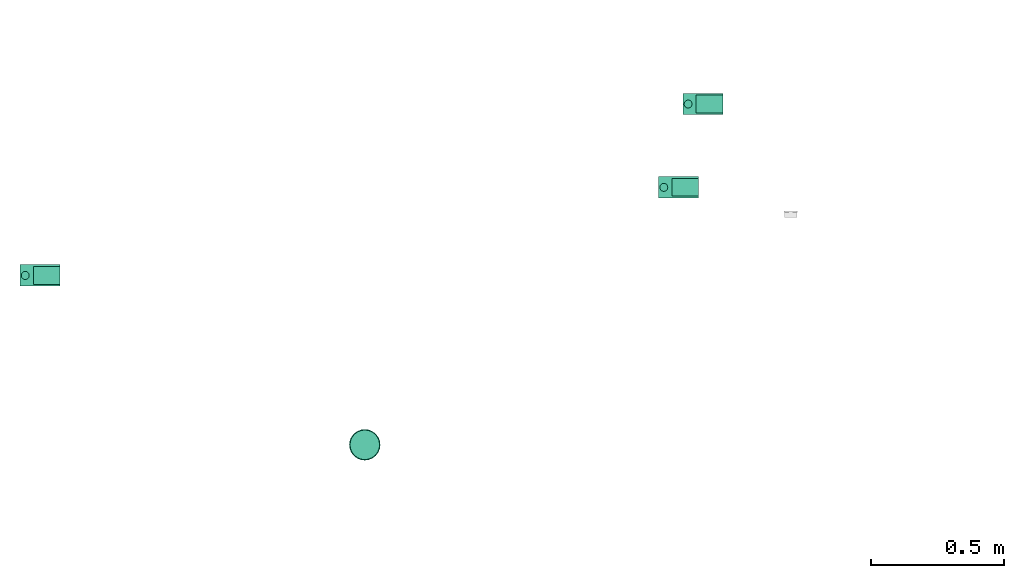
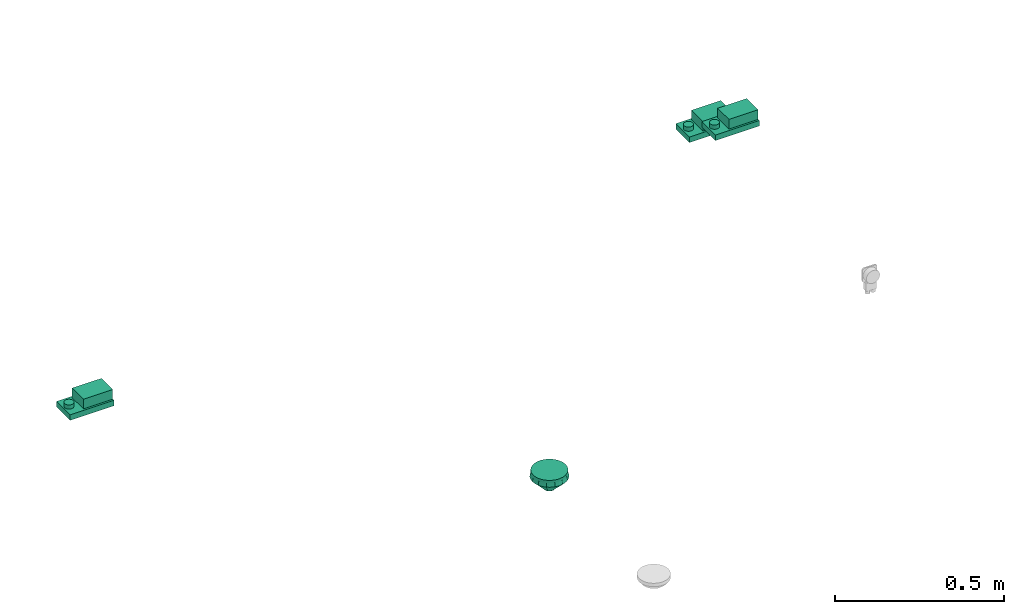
# One storey, part 5 of 10: 4 distribution control elements.
"""IFC2X3 building model written with IfcOpenShell, lengths in millimetres."""

import ifcopenshell
import ifcopenshell.guid

model = None  # the IFC model being written
_history = None  # IfcOwnerHistory: only IFC2X3 demands one
_inside = {}  # id of a spatial element -> (the spatial element, [elements in it])
_under = {}  # id of a project, library or spatial element -> (it, [spatial elements below it])
_declared = {}  # id of a project -> (the project, [libraries it declares])
_typed = {}  # id of a type object -> (the type object, [elements of that type])
_made_of = {}  # id of a material, layer set ... -> (it, [elements and type objects made of it])


def new_model(schema):
    """Start an empty IFC model of exactly this schema.

    Asked for "IFC4X3", IfcOpenShell would pick the latest addendum, in which some entities
    have other attributes; the version numbers below select the first issue.
    IFC2X3 requires an IfcOwnerHistory on every rooted entity: one is made here for all.
    """
    global model, _history
    if schema == "IFC4X3":
        model = ifcopenshell.file(schema_version=(4, 3, 0, 0))
    else:
        model = ifcopenshell.file(schema=schema)
    _inside.clear()
    _under.clear()
    _declared.clear()
    _typed.clear()
    _made_of.clear()
    _history = None
    if model.schema == "IFC2X3":
        org = make("IfcOrganization", Name="unknown")
        user = make(
            "IfcPersonAndOrganization",
            ThePerson=make("IfcPerson", FamilyName="unknown"),
            TheOrganization=org,
        )
        app = make(
            "IfcApplication",
            ApplicationDeveloper=org,
            Version="unknown",
            ApplicationFullName="unknown",
            ApplicationIdentifier="unknown",
        )
        _history = make(
            "IfcOwnerHistory",
            OwningUser=user,
            OwningApplication=app,
            ChangeAction="ADDED",
            CreationDate=0,
        )
    return model


def make(cls, **values):
    """One entity of the class cls with the attributes given. An attribute that is None is left unset."""
    return model.create_entity(
        cls, **{name: value for name, value in values.items() if value is not None}
    )


def entity(cls, *values):
    """Any entity or typed value of the class cls, its attributes in the order of the schema. None: left unset."""
    e = model.create_entity(cls)
    for i, value in enumerate(values):
        if value is not None:
            e[i] = value
    return e


def rooted(cls, **values):
    """An entity with a GlobalId (a new one), such as an element, a storey or a relation."""
    return make(cls, GlobalId=ifcopenshell.guid.new(), OwnerHistory=_history, **values)


def si_unit(unit_type, name, prefix=None):
    """IfcSIUnit, for example si_unit("LENGTHUNIT", "METRE", prefix="MILLI")."""
    return make("IfcSIUnit", UnitType=unit_type, Prefix=prefix, Name=name)


def converted_unit(unit_type, name, factor, base, dimensions=None, offset=None):
    """IfcConversionBasedUnit, such as the inch: factor (a typed value) times the base unit."""
    return make(
        "IfcConversionBasedUnit"
        if offset is None
        else "IfcConversionBasedUnitWithOffset",
        ConversionOffset=offset,
        Dimensions=None
        if dimensions is None
        else entity("IfcDimensionalExponents", *dimensions),
        UnitType=unit_type,
        Name=name,
        ConversionFactor=make(
            "IfcMeasureWithUnit", ValueComponent=factor, UnitComponent=base
        ),
    )


def derived_unit(unit_type, elements):
    """IfcDerivedUnit: a product of units, each with its exponent."""
    return make(
        "IfcDerivedUnit",
        Elements=[
            make("IfcDerivedUnitElement", Unit=unit, Exponent=power)
            for unit, power in elements
        ],
        UnitType=unit_type,
    )


def assignment(units):
    """IfcUnitAssignment: the units of a project."""
    return None if units is None else make("IfcUnitAssignment", Units=units)


def point(xyz):
    """IfcCartesianPoint."""
    return None if xyz is None else make("IfcCartesianPoint", Coordinates=xyz)


def direction(xyz):
    """IfcDirection."""
    return None if xyz is None else make("IfcDirection", DirectionRatios=xyz)


def frame(location, z_axis=None, x_axis=None):
    """IfcAxis2Placement3D, a coordinate frame: its origin and axes. An axis left out is left unset."""
    return make(
        "IfcAxis2Placement3D",
        Location=point(location),
        Axis=direction(z_axis),
        RefDirection=direction(x_axis),
    )


def origin_with_axes():
    """The frame at (0, 0, 0) with the z axis (0, 0, 1) and the x axis (1, 0, 0) written out."""
    return frame((0.0, 0.0, 0.0), z_axis=(0.0, 0.0, 1.0), x_axis=(1.0, 0.0, 0.0))


def place(relative_to, where):
    """IfcLocalPlacement: puts the frame where relative to a parent placement (None: the world)."""
    return make(
        "IfcLocalPlacement", PlacementRelTo=relative_to, RelativePlacement=where
    )


def context(
    kind, dimensions, precision=None, world=None, true_north=None, identifier=None
):
    """IfcGeometricRepresentationContext, for example the 3D "Model" context."""
    return make(
        "IfcGeometricRepresentationContext",
        ContextIdentifier=identifier,
        ContextType=kind,
        CoordinateSpaceDimension=dimensions,
        Precision=precision,
        WorldCoordinateSystem=world,
        TrueNorth=true_north,
    )


def subcontext(parent, identifier, kind, view, scale=None):
    """IfcGeometricRepresentationSubContext, for example "Body" below "Model"."""
    return make(
        "IfcGeometricRepresentationSubContext",
        ContextIdentifier=identifier,
        ContextType=kind,
        ParentContext=parent,
        TargetScale=scale,
        TargetView=view,
    )


def project(units=None, contexts=None):
    """IfcProject with its units and contexts."""
    return rooted(
        "IfcProject",
        Name="project",
        RepresentationContexts=contexts,
        UnitsInContext=assignment(units),
    )


def spatial(cls, under=None, at=None, **own):
    """A site, building, storey or space (cls), placed at a placement, below another one or the project."""
    s = rooted(cls, ObjectPlacement=at, **own)
    if under is not None:
        _under.setdefault(under.id(), (under, []))[1].append(s)
    return s


def faces_of(points, faces, orient=None, outer=None):
    """IfcFace entities. A face is a list of loops; a loop is a list of indices into points, from 0.

    orient and outer hold one flag for each loop. By default every Orientation is true, the
    first loop of a face is its IfcFaceOuterBound and the others are IfcFaceBound.
    """
    made = []
    for i, loops in enumerate(faces):
        bounds = []
        for j, loop in enumerate(loops):
            is_outer = j == 0 if outer is None else outer[i][j]
            bounds.append(
                make(
                    "IfcFaceOuterBound" if is_outer else "IfcFaceBound",
                    Bound=make("IfcPolyLoop", Polygon=[points[k] for k in loop]),
                    Orientation=True if orient is None else orient[i][j],
                )
            )
        made.append(make("IfcFace", Bounds=bounds))
    return made


def open_shell(faces, orient=None, outer=None):
    """The faces of one IfcOpenShell. surface_model builds it on its shared points."""
    return ("IfcOpenShell", faces, orient, outer)


def surface_model(cls, points, shells):
    """IfcFaceBasedSurfaceModel or IfcShellBasedSurfaceModel (cls): surfaces that need not close."""
    shared = [point(p) for p in points]
    made = [make(c, CfsFaces=faces_of(shared, fs, o, b)) for c, fs, o, b in shells]
    if cls == "IfcFaceBasedSurfaceModel":
        return make(cls, FbsmFaces=made)
    return make(cls, SbsmBoundary=made)


def shape(context_of_items, identifier, shape_type, items):
    """IfcShapeRepresentation: the items that make up one representation, for example the "Body"."""
    return make(
        "IfcShapeRepresentation",
        ContextOfItems=context_of_items,
        RepresentationIdentifier=identifier,
        RepresentationType=shape_type,
        Items=items,
    )


def source(mapping_origin, context_of_items, identifier, shape_type, items):
    """IfcRepresentationMap: a shape defined once, which mapped items show again and again."""
    return make(
        "IfcRepresentationMap",
        MappingOrigin=mapping_origin,
        MappedRepresentation=shape(context_of_items, identifier, shape_type, items),
    )


def transform(
    local_origin,
    x_axis=None,
    y_axis=None,
    z_axis=None,
    scale=None,
    scale2=None,
    scale3=None,
    uniform=True,
):
    """IfcCartesianTransformationOperator3D, or its non-uniform kind. x_axis, y_axis, z_axis: its Axis1, 2, 3."""
    if uniform:
        return make(
            "IfcCartesianTransformationOperator3D",
            Axis1=direction(x_axis),
            Axis2=direction(y_axis),
            LocalOrigin=point(local_origin),
            Scale=scale,
            Axis3=direction(z_axis),
        )
    return make(
        "IfcCartesianTransformationOperator3DnonUniform",
        Axis1=direction(x_axis),
        Axis2=direction(y_axis),
        LocalOrigin=point(local_origin),
        Scale=scale,
        Axis3=direction(z_axis),
        Scale2=scale2,
        Scale3=scale3,
    )


def mapped(mapping_source, mapping_target):
    """IfcMappedItem: shows the shape of a source again, moved by a transform."""
    return make(
        "IfcMappedItem", MappingSource=mapping_source, MappingTarget=mapping_target
    )


def made_of(thing, what):
    """Note that an element or type object is made of a material, layer set ...; save() writes the relation."""
    if what is not None:
        _made_of.setdefault(what.id(), (what, []))[1].append(thing)
    return thing


def type_object(cls, material=None, **own):
    """A type object (cls), such as IfcWallType, which elements share."""
    return made_of(rooted(cls, **own), material)


def element(
    cls,
    number,
    at=None,
    inside=None,
    cuts=None,
    type_object=None,
    material=None,
    context=None,
    identifier="Body",
    shape_type=None,
    held_by="IfcProductDefinitionShape",
    body=None,
    shapes=None,
    **own,
):
    """One element of the class cls, such as IfcWall. Its Tag is "e" and its number.

    at: its placement. inside: the storey or other place that contains it. cuts: it is an
    opening in that element (IfcRelVoidsElement). A single representation is given by context,
    identifier, shape_type and body (its items); several are given by shapes. held_by: the class
    of the entity that holds the representations. save() writes the other relations.
    """
    e = rooted(cls, Tag="e%d" % number, ObjectPlacement=at, **own)
    if body is not None:
        shapes = [shape(context, identifier, shape_type, body)]
    if shapes is not None:
        e.Representation = make(held_by, Representations=shapes)
    if inside is not None:
        _inside.setdefault(inside.id(), (inside, []))[1].append(e)
    if cuts is not None:
        rooted(
            "IfcRelVoidsElement", RelatingBuildingElement=cuts, RelatedOpeningElement=e
        )
    if type_object is not None:
        _typed.setdefault(type_object.id(), (type_object, []))[1].append(e)
    return made_of(e, material)


def aggregate(whole, parts):
    """IfcRelAggregates: a whole, such as a stair, and the parts it consists of."""
    return rooted("IfcRelAggregates", RelatingObject=whole, RelatedObjects=parts)


def save(model, path):
    """Write the relations noted so far, then the file.

    IfcRelAggregates (storeys below a building ...), IfcRelContainedInSpatialStructure (elements
    in a storey), IfcRelDefinesByType, IfcRelAssociatesMaterial and IfcRelDeclares: one each for
    every whole, place, type object, material and project.
    """
    for whole, parts in _under.values():
        aggregate(whole, parts)
    for where, things in _inside.values():
        rooted(
            "IfcRelContainedInSpatialStructure",
            RelatedElements=things,
            RelatingStructure=where,
        )
    for kind, things in _typed.values():
        rooted("IfcRelDefinesByType", RelatedObjects=things, RelatingType=kind)
    for what, things in _made_of.values():
        rooted("IfcRelAssociatesMaterial", RelatedObjects=things, RelatingMaterial=what)
    for by, libraries in _declared.values():
        rooted("IfcRelDeclares", RelatingContext=by, RelatedDefinitions=libraries)
    model.write(path)


model = new_model("IFC2X3")

# Units and contexts
model_context = context("Model", 3, precision=0.01, world=frame((0.0, 4.29681676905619e-09, 0.0)), true_north=direction((4.01073788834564e-13, 1.0)))
plan_context = context("Plan", 3, precision=0.01, world=frame((0.0, 4.29681676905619e-09, 0.0)), true_north=direction((4.01073788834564e-13, 1.0)))
body_context = subcontext(model_context, "Body", "Model", "MODEL_VIEW")
ifc_project = project(units=[converted_unit("PLANEANGLEUNIT", "DEGREE", entity("IfcPositiveLengthMeasure", 0.0174532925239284), si_unit("PLANEANGLEUNIT", "RADIAN"), dimensions=[0, 0, 0, 0, 0, 0, 0]), si_unit("AREAUNIT", "SQUARE_METRE"), si_unit("LENGTHUNIT", "METRE", prefix="MILLI"), si_unit("MASSUNIT", "GRAM", prefix="KILO"), si_unit("POWERUNIT", "WATT"), si_unit("PRESSUREUNIT", "PASCAL"), si_unit("FORCEUNIT", "NEWTON", prefix="KILO"), si_unit("ELECTRICVOLTAGEUNIT", "VOLT"), si_unit("ELECTRICCURRENTUNIT", "AMPERE"), si_unit("THERMODYNAMICTEMPERATUREUNIT", "DEGREE_CELSIUS"), si_unit("TIMEUNIT", "SECOND"), si_unit("VOLUMEUNIT", "CUBIC_METRE"), derived_unit("LINEARVELOCITYUNIT", [(si_unit("LENGTHUNIT", "METRE"), 1), (si_unit("TIMEUNIT", "SECOND"), -1)]), derived_unit("VOLUMETRICFLOWRATEUNIT", [(si_unit("VOLUMEUNIT", "CUBIC_METRE"), 1), (si_unit("TIMEUNIT", "SECOND"), -1)]), derived_unit("THERMALTRANSMITTANCEUNIT", [(si_unit("POWERUNIT", "WATT"), 1), (si_unit("THERMODYNAMICTEMPERATUREUNIT", "KELVIN"), -1), (si_unit("AREAUNIT", "SQUARE_METRE"), -1)]), derived_unit("SOUNDPRESSUREUNIT", [(si_unit("PRESSUREUNIT", "PASCAL"), 1)])], contexts=[model_context, plan_context])

# Site, building, storey
site_placement = place(None, frame((0.0, -4.29681676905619e-09, 0.0), z_axis=(0.0, 0.0, 1.0), x_axis=(1.0, 0.0, 0.0)))
site = spatial("IfcSite", under=ifc_project, at=site_placement, Name="ENGM", CompositionType="ELEMENT")
building_placement = place(site_placement, frame((0.0, 4.29681676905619e-09, 0.0), z_axis=(0.0, 0.0, 1.0), x_axis=(1.0, 0.0, 0.0)))
building = spatial("IfcBuilding", under=site, at=building_placement, Name="TS", CompositionType="ELEMENT")
storey_placement = place(building_placement, frame((0.0, 0.0, 210900.0), z_axis=(0.0, 0.0, 1.0), x_axis=(1.0, 0.0, 0.0)))
storey = spatial("IfcBuildingStorey", under=building, at=storey_placement, Name="Nivå F", CompositionType="ELEMENT", Elevation=210900.0)

# Distribution control elements
alarm_type_1 = type_object("IfcAlarmType", Name="Standard", PredefinedType="NOTDEFINED")
shared_shape_1 = source(origin_with_axes(), body_context, "Body", "SurfaceModel", [
    surface_model("IfcShellBasedSurfaceModel", [(8.775, -15.19875, -64.9), (-12.40972, -12.40972, -64.9), (4.54227, -16.952, -64.9), (15.19875, -8.775, -64.9), (12.40972, -12.40972, -64.9), (16.952, -4.54227, -64.9), (-4.54227, 16.952, -64.9), (-16.952, -4.54227, -64.9), (0.0, -17.55, -64.9), (-8.775, -15.19875, -64.9), (-4.54227, -16.952, -64.9), (-15.19875, -8.775, -64.9), (17.55, 0.0, -64.9), (15.19875, 8.775, -64.9), (16.952, 4.54227, -64.9), (0.0, 17.55, -64.9), (12.40972, 12.40972, -64.9), (4.54227, 16.952, -64.9), (8.775, 15.19875, -64.9), (-17.55, 0.0, -64.9), (-15.19875, 8.775, -64.9), (-16.952, 4.54227, -64.9), (-12.40972, 12.40972, -64.9), (-8.775, 15.19875, -64.9), (16.952, 4.54227, -65.1), (0.0, 17.55, -65.1), (4.54227, 16.952, -65.1), (12.40972, 12.40972, -65.1), (8.775, 15.19875, -65.1), (15.19875, 8.775, -65.1), (-12.40972, 12.40972, -65.1), (-4.54227, 16.952, -65.1), (-8.775, 15.19875, -65.1), (-15.19875, 8.775, -65.1), (-17.55, 0.0, -65.1), (-16.952, 4.54227, -65.1), (-16.952, -4.54227, -65.1), (16.952, -4.54227, -65.1), (8.775, -15.19875, -65.1), (15.19875, -8.775, -65.1), (12.40972, -12.40972, -65.1), (-12.40972, -12.40972, -65.1), (4.54227, -16.952, -65.1), (-15.19875, -8.775, -65.1), (-8.775, -15.19875, -65.1), (0.0, -17.55, -65.1), (-4.54227, -16.952, -65.1), (17.55, 0.0, -65.1), (-36.47415, 45.73714, -22.75), (-52.70668, 25.3822, -22.75), (-58.5, 0.0, -22.75), (52.70668, 25.3822, -22.75), (13.01748, 57.03328, -22.75), (-13.01748, 57.03328, -22.75), (36.47415, 45.73714, -22.75), (-52.70668, -25.3822, -22.75), (-36.47415, -45.73714, -22.75), (-13.01748, -57.03328, -22.75), (36.47415, -45.73714, -22.75), (52.70668, -25.3822, -22.75), (58.5, 0.0, -22.75), (13.01748, -57.03328, -22.75), (0.0, 17.55, -65.0), (12.40972, 12.40972, -65.0), (-12.40972, 12.40972, -65.0), (-12.40972, -12.40972, -65.0), (-17.55, 0.0, -65.0), (17.55, 0.0, -65.0), (12.40972, -12.40972, -65.0), (0.0, -17.55, -65.0), (-44.59042, -35.55967, -22.75), (-13.69479, -9.30729, -65.0), (55.60334, -12.6911, -22.75), (14.97986, -6.20486, -65.0), (16.26493, -3.10243, -65.0), (-9.30729, -13.69479, -65.0), (-6.20486, -14.97986, -65.0), (-24.74581, -51.38521, -22.75), (-14.97986, -6.20486, -65.0), (24.74581, -51.38521, -22.75), (9.30729, -13.69479, -65.0), (-55.60334, -12.6911, -22.75), (-16.26493, -3.10243, -65.0), (-3.10243, -16.26493, -65.0), (3.10243, -16.26493, -65.0), (0.0, -57.03328, -22.75), (44.59042, -35.55967, -22.75), (13.69479, -9.30729, -65.0), (6.20486, -14.97986, -65.0), (44.59042, 35.55967, -22.75), (13.69479, 9.30729, -65.0), (-55.60334, 12.6911, -22.75), (-14.97986, 6.20486, -65.0), (-16.26493, 3.10243, -65.0), (9.30729, 13.69479, -65.0), (6.20486, 14.97986, -65.0), (24.74581, 51.38521, -22.75), (14.97986, 6.20486, -65.0), (-24.74581, 51.38521, -22.75), (-9.30729, 13.69479, -65.0), (55.60334, 12.6911, -22.75), (16.26493, 3.10243, -65.0), (3.10243, 16.26493, -65.0), (-3.10243, 16.26493, -65.0), (0.0, 57.03328, -22.75), (-44.59042, 35.55967, -22.75), (-13.69479, 9.30729, -65.0), (-6.20486, 14.97986, -65.0), (-28.275, 48.97374, -16.25), (-32.41056, 45.80041, -16.25), (-13.88456, 54.72206, -16.25), (-49.79102, 26.30191, -16.25), (-39.98689, 39.98689, -16.25), (-48.97374, 28.275, -16.25), (-37.1285, 42.18021, -16.25), (-35.38305, 44.36894, -16.25), (-56.2774, 2.07059, -16.25), (-56.75, 0.0, -16.25), (-56.55, 0.0, -16.25), (-51.91976, 21.16268, -16.25), (-51.12998, 24.6229, -16.25), (-54.62311, 14.63622, -16.25), (28.275, 48.97374, -16.25), (14.63622, 54.62311, -16.25), (13.88456, 54.72206, -16.25), (54.62311, -14.63622, -16.25), (56.2774, -2.07059, -16.25), (51.91976, -21.16268, -16.25), (12.62806, 55.32716, -16.25), (9.2884, 55.32716, -16.25), (49.79102, 26.30191, -16.25), (39.98689, 39.98689, -16.25), (37.1285, 42.18021, -16.25), (56.55, 0.0, -16.25), (56.75, 0.0, -16.25), (56.2774, 2.07059, -16.25), (39.98689, -39.98689, -16.25), (49.79102, -26.30191, -16.25), (37.1285, -42.18021, -16.25), (35.38305, 44.36894, -16.25), (32.41056, 45.80041, -16.25), (35.38305, -44.36894, -16.25), (32.41056, -45.80041, -16.25), (-56.2774, -2.07059, -16.25), (-49.79102, -26.30191, -16.25), (-51.91976, -21.16268, -16.25), (-51.12998, -24.6229, -16.25), (-37.1285, -42.18021, -16.25), (-35.38305, -44.36894, -16.25), (-32.41056, -45.80041, -16.25), (-13.88456, -54.72206, -16.25), (-28.275, -48.97374, -16.25), (-14.63622, -54.62311, -16.25), (51.12998, -24.6229, -16.25), (-39.98689, -39.98689, -16.25), (-48.97374, -28.275, -16.25), (-9.2884, 55.32716, -16.25), (-12.62806, 55.32716, -16.25), (28.275, -48.97374, -16.25), (13.88456, -54.72206, -16.25), (14.63622, -54.62311, -16.25), (48.97374, -28.275, -16.25), (12.62806, -55.32716, -16.25), (9.2884, -55.32716, -16.25), (0.0, -56.55, -16.25), (-9.2884, -55.32716, -16.25), (-12.62806, -55.32716, -16.25), (-54.62311, -14.63622, -16.25), (-14.63622, 54.62311, -16.25), (0.0, 56.55, -16.25), (48.97374, 28.275, -16.25), (51.91976, 21.16268, -16.25), (51.12998, 24.6229, -16.25), (54.62311, 14.63622, -16.25), (29.15, 50.48928, -22.75), (33.43697, 47.19977, -22.75), (14.29509, 56.41801, -22.75), (51.34019, 27.09572, -22.75), (41.22432, 41.22432, -22.75), (50.48928, 29.15, -22.75), (58.0274, 2.07059, -22.75), (58.3, 0.0, -22.75), (38.25759, 43.50078, -22.75), (-33.43697, 47.19977, -22.75), (-38.25759, 43.50078, -22.75), (56.31348, 15.08915, -22.75), (53.51269, 21.85086, -22.75), (-14.29509, -56.41801, -22.75), (-9.62167, -57.03328, -22.75), (-29.15, 50.48928, -22.75), (-15.08915, 56.31348, -22.75), (-14.29509, 56.41801, -22.75), (-56.31348, -15.08915, -22.75), (-58.0274, -2.07059, -22.75), (-53.51269, -21.85086, -22.75), (-9.62167, 57.03328, -22.75), (-51.34019, 27.09572, -22.75), (-41.22432, 41.22432, -22.75), (-41.22432, -41.22432, -22.75), (-51.34019, -27.09572, -22.75), (-38.25759, -43.50078, -22.75), (-58.3, 0.0, -22.75), (-58.0274, 2.07059, -22.75), (58.0274, -2.07059, -22.75), (-33.43697, -47.19977, -22.75), (51.34019, -27.09572, -22.75), (53.51269, -21.85086, -22.75), (41.22432, -41.22432, -22.75), (38.25759, -43.50078, -22.75), (29.15, -50.48928, -22.75), (15.08915, -56.31348, -22.75), (14.29509, -56.41801, -22.75), (9.62167, -57.03328, -22.75), (33.43697, -47.19977, -22.75), (50.48928, -29.15, -22.75), (9.62167, 57.03328, -22.75), (-29.15, -50.48928, -22.75), (-15.08915, -56.31348, -22.75), (-50.48928, -29.15, -22.75), (0.0, -58.3, -22.75), (56.31348, -15.08915, -22.75), (15.08915, 56.31348, -22.75), (0.0, 58.3, -22.75), (-50.48928, 29.15, -22.75), (-53.51269, 21.85086, -22.75), (-56.31348, 15.08915, -22.75), (53.15004, -15.77246, -16.25), (43.25652, -34.49592, -16.25), (-54.78902, -16.25884, -22.75), (-53.93999, -12.31145, -16.25), (24.00555, -49.84805, -16.25), (0.0, -55.32716, -16.25), (-24.00555, -49.84805, -16.25), (-43.25652, -34.49592, -16.25), (-53.15004, 15.77246, -16.25), (-43.25652, 34.49592, -16.25), (54.78902, 16.25884, -22.75), (53.93999, 12.31145, -16.25), (-24.00555, 49.84805, -16.25), (0.0, 55.32716, -16.25), (24.00555, 49.84805, -16.25), (43.25652, 34.49592, -16.25), (-27.65, 47.8912, -9.75), (-31.6774, 44.80087, -9.75), (-13.59132, 53.51067, -9.75), (-48.68446, 25.73491, -9.75), (-39.103, 39.103, -9.75), (-47.8912, 27.65, -9.75), (-34.60368, 43.39165, -9.75), (-36.322, 41.23694, -9.75), (-55.0274, 2.07059, -9.75), (-55.5, 0.0, -9.75), (-55.3, 0.0, -9.75), (-50.00377, 24.08055, -9.75), (-50.78195, 20.67112, -9.75), (-53.4157, 14.31269, -9.75), (27.65, 47.8912, -9.75), (14.31269, 53.4157, -9.75), (13.59132, 53.51067, -9.75), (53.4157, -14.31269, -9.75), (55.0274, -2.07059, -9.75), (50.78195, -20.67112, -9.75), (9.05035, 54.1085, -9.75), (12.34991, 54.1085, -9.75), (48.68446, 25.73491, -9.75), (39.103, 39.103, -9.75), (36.322, 41.23694, -9.75), (39.103, -39.103, -9.75), (48.68446, -25.73491, -9.75), (36.322, -41.23694, -9.75), (34.60368, 43.39165, -9.75), (31.6774, 44.80087, -9.75), (55.0274, 2.07059, -9.75), (55.3, 0.0, -9.75), (55.5, 0.0, -9.75), (34.60368, -43.39165, -9.75), (31.6774, -44.80087, -9.75), (-55.0274, -2.07059, -9.75), (-48.68446, -25.73491, -9.75), (-50.78195, -20.67112, -9.75), (-50.00377, -24.08055, -9.75), (-12.34991, -54.1085, -9.75), (-9.05035, -54.1085, -9.75), (-13.59132, -53.51067, -9.75), (-27.65, -47.8912, -9.75), (-14.31269, -53.4157, -9.75), (50.00377, -24.08055, -9.75), (-31.6774, -44.80087, -9.75), (-39.103, -39.103, -9.75), (-36.322, -41.23694, -9.75), (-47.8912, -27.65, -9.75), (-9.05035, 54.1085, -9.75), (-12.34991, 54.1085, -9.75), (27.65, -47.8912, -9.75), (13.59132, -53.51067, -9.75), (14.31269, -53.4157, -9.75), (47.8912, -27.65, -9.75), (0.0, -55.3, -9.75), (9.05035, -54.1085, -9.75), (12.34991, -54.1085, -9.75), (-34.60368, -43.39165, -9.75), (-53.4157, -14.31269, -9.75), (-14.31269, 53.4157, -9.75), (0.0, 55.3, -9.75), (47.8912, 27.65, -9.75), (50.78195, 20.67112, -9.75), (50.00377, 24.08055, -9.75), (53.4157, 14.31269, -9.75), (51.93259, -15.62982, -9.75), (42.30373, -33.7361, -9.75), (-53.10225, -15.98184, -16.25), (-52.75189, -12.04027, -9.75), (23.4768, -48.75007, -9.75), (53.93999, -12.31145, -16.25), (0.0, -54.1085, -9.75), (-23.4768, -48.75007, -9.75), (-42.30373, -33.7361, -9.75), (-51.93259, 15.62982, -9.75), (-42.30373, 33.7361, -9.75), (53.10225, 15.98184, -16.25), (52.75189, 12.04027, -9.75), (-23.4768, 48.75007, -9.75), (-53.93999, 12.31145, -16.25), (0.0, 54.1085, -9.75), (23.4768, 48.75007, -9.75), (42.30373, 33.7361, -9.75), (14.36446, -53.60888, 0.0), (27.75, -48.06441, 0.0), (39.24443, -39.24443, 0.0), (0.0, -55.5, 0.0), (48.06441, -27.75, 0.0), (53.60888, -14.36446, 0.0), (55.5, 0.0, 0.0), (-27.75, -48.06441, 0.0), (-14.36446, -53.60888, 0.0), (-48.06441, -27.75, 0.0), (-39.24443, -39.24443, 0.0), (-53.60888, -14.36446, 0.0), (48.06441, 27.75, 0.0), (14.36446, 53.60888, 0.0), (39.24443, 39.24443, 0.0), (0.0, 55.5, 0.0), (27.75, 48.06441, 0.0), (-27.75, 48.06441, 0.0), (-55.5, 0.0, 0.0), (-48.06441, 27.75, 0.0), (-53.60888, 14.36446, 0.0), (-39.24443, 39.24443, 0.0), (-14.36446, 53.60888, 0.0), (53.60888, 14.36446, 0.0), (14.36446, 53.60888, -9.75), (-27.75, 48.06441, -9.75), (0.0, 55.5, -9.75), (39.24443, 39.24443, -9.75), (27.75, 48.06441, -9.75), (48.06441, 27.75, -9.75), (53.60888, 14.36446, -9.75), (-48.06441, 27.75, -9.75), (-39.24443, 39.24443, -9.75), (-14.36446, 53.60888, -9.75), (-53.60888, 14.36446, -9.75), (53.60888, -14.36446, -9.75), (48.06441, -27.75, -9.75), (-53.60888, -14.36446, -9.75), (39.24443, -39.24443, -9.75), (27.75, -48.06441, -9.75), (14.36446, -53.60888, -9.75), (-27.75, -48.06441, -9.75), (-48.06441, -27.75, -9.75), (-39.24443, -39.24443, -9.75), (0.0, -55.5, -9.75), (-14.36446, -53.60888, -9.75)], [open_shell([[[0, 1, 2]], [[3, 0, 4]], [[0, 5, 1]], [[5, 0, 3]], [[5, 6, 7]], [[8, 9, 10]], [[9, 8, 1]], [[1, 7, 11]], [[1, 8, 2]], [[5, 7, 1]], [[5, 12, 6]], [[13, 6, 14]], [[15, 13, 16]], [[17, 15, 16]], [[17, 16, 18]], [[6, 13, 15]], [[19, 20, 21]], [[19, 7, 20]], [[22, 6, 23]], [[7, 22, 20]], [[6, 22, 7]], [[12, 14, 6]], [[24, 25, 26]], [[27, 26, 28]], [[29, 24, 26]], [[29, 26, 27]], [[25, 24, 30]], [[31, 30, 32]], [[31, 25, 30]], [[33, 34, 35]], [[36, 34, 33]], [[33, 30, 36]], [[30, 24, 37]], [[36, 30, 37]], [[38, 37, 39]], [[36, 37, 38]], [[38, 39, 40]], [[41, 38, 42]], [[36, 41, 43]], [[36, 38, 41]], [[44, 45, 46]], [[45, 44, 41]], [[42, 45, 41]], [[37, 24, 47]], [[36, 7, 34]], [[43, 11, 36]], [[9, 41, 44]], [[43, 41, 1]], [[10, 44, 46]], [[36, 11, 7]], [[7, 19, 34]], [[10, 9, 44]], [[1, 41, 9]], [[1, 11, 43]], [[8, 10, 46]], [[46, 45, 8]], [[42, 2, 45]], [[38, 0, 42]], [[3, 40, 39]], [[38, 40, 4]], [[5, 39, 37]], [[38, 4, 0]], [[0, 2, 42]], [[12, 5, 37]], [[3, 39, 5]], [[3, 4, 40]], [[47, 12, 37]], [[45, 2, 8]], [[24, 14, 47]], [[29, 13, 24]], [[18, 27, 28]], [[29, 27, 16]], [[17, 28, 26]], [[24, 13, 14]], [[14, 12, 47]], [[17, 18, 28]], [[16, 27, 18]], [[16, 13, 29]], [[15, 17, 26]], [[26, 25, 15]], [[31, 6, 25]], [[32, 23, 31]], [[20, 30, 33]], [[32, 30, 22]], [[21, 33, 35]], [[32, 22, 23]], [[23, 6, 31]], [[19, 21, 35]], [[20, 33, 21]], [[20, 22, 30]], [[34, 19, 35]], [[25, 6, 15]], [[48, 49, 50]], [[48, 50, 51]], [[52, 53, 51]], [[51, 54, 52]], [[53, 48, 51]], [[50, 55, 51]], [[55, 56, 57]], [[57, 58, 51]], [[59, 60, 58]], [[60, 51, 58]], [[57, 61, 58]], [[51, 55, 57]], [[62, 63, 64]], [[65, 66, 64]], [[64, 63, 65]], [[67, 68, 69]], [[69, 65, 67]], [[67, 65, 63]], [[65, 70, 71]], [[72, 73, 74]], [[75, 76, 77]], [[55, 78, 71]], [[79, 80, 58]], [[78, 55, 81]], [[81, 82, 78]], [[57, 76, 83]], [[84, 85, 69]], [[59, 73, 72]], [[55, 71, 70]], [[69, 85, 83]], [[60, 74, 67]], [[68, 86, 58]], [[86, 68, 87]], [[56, 65, 75]], [[87, 59, 86]], [[60, 72, 74]], [[65, 56, 70]], [[66, 82, 50]], [[50, 82, 81]], [[56, 75, 77]], [[80, 79, 88]], [[61, 84, 88]], [[80, 68, 58]], [[87, 73, 59]], [[76, 57, 77]], [[85, 84, 61]], [[57, 83, 85]], [[79, 61, 88]], [[63, 89, 90]], [[91, 92, 93]], [[94, 95, 96]], [[51, 97, 90]], [[98, 99, 48]], [[97, 51, 100]], [[100, 101, 97]], [[52, 95, 102]], [[103, 104, 62]], [[49, 92, 91]], [[51, 90, 89]], [[62, 104, 102]], [[50, 93, 66]], [[64, 105, 48]], [[105, 64, 106]], [[54, 63, 94]], [[106, 49, 105]], [[50, 91, 93]], [[63, 54, 89]], [[67, 101, 60]], [[60, 101, 100]], [[54, 94, 96]], [[99, 98, 107]], [[53, 103, 107]], [[99, 64, 48]], [[106, 92, 49]], [[95, 52, 96]], [[104, 103, 53]], [[52, 102, 104]], [[98, 53, 107]], [[108, 109, 110]], [[111, 112, 113]], [[114, 109, 115]], [[116, 117, 118]], [[119, 111, 120]], [[121, 116, 119]], [[122, 123, 124]], [[125, 126, 127]], [[128, 129, 124]], [[130, 131, 132]], [[133, 134, 135]], [[136, 137, 138]], [[132, 139, 140]], [[141, 138, 142]], [[112, 111, 114]], [[117, 143, 118]], [[144, 145, 146]], [[147, 148, 149]], [[150, 151, 152]], [[127, 137, 153]], [[151, 150, 149]], [[154, 147, 144]], [[154, 144, 155]], [[110, 156, 157]], [[158, 159, 160]], [[133, 126, 134]], [[161, 137, 136]], [[162, 159, 163]], [[164, 163, 165]], [[158, 142, 159]], [[150, 166, 165]], [[167, 145, 143]], [[108, 110, 168]], [[169, 156, 129]], [[122, 124, 140]], [[131, 130, 170]], [[130, 171, 172]], [[173, 171, 135]], [[174, 175, 176]], [[177, 178, 179]], [[180, 60, 181]], [[54, 182, 175]], [[48, 183, 184]], [[185, 180, 186]], [[57, 187, 188]], [[189, 190, 191]], [[192, 193, 194]], [[195, 191, 53]], [[196, 197, 184]], [[198, 199, 200]], [[51, 186, 177]], [[201, 50, 202]], [[203, 181, 60]], [[178, 177, 182]], [[204, 56, 200]], [[205, 206, 59]], [[205, 207, 208]], [[209, 210, 211]], [[212, 211, 61]], [[209, 211, 213]], [[194, 199, 55]], [[207, 205, 214]], [[215, 52, 176]], [[216, 187, 217]], [[201, 193, 50]], [[198, 218, 199]], [[208, 58, 213]], [[219, 188, 212]], [[204, 187, 216]], [[220, 206, 203]], [[174, 176, 221]], [[222, 215, 195]], [[189, 191, 183]], [[197, 196, 223]], [[196, 224, 49]], [[225, 224, 202]], [[153, 59, 226]], [[141, 86, 227]], [[228, 146, 229]], [[162, 79, 230]], [[134, 226, 72]], [[72, 60, 134]], [[226, 59, 72]], [[230, 58, 141]], [[59, 153, 227]], [[141, 58, 86]], [[85, 231, 166]], [[166, 57, 85]], [[148, 77, 232]], [[56, 233, 70]], [[146, 70, 233]], [[57, 232, 77]], [[146, 55, 70]], [[50, 229, 117]], [[162, 61, 79]], [[232, 57, 166]], [[58, 230, 79]], [[146, 228, 55]], [[56, 148, 233]], [[59, 227, 86]], [[148, 56, 77]], [[162, 231, 61]], [[50, 228, 229]], [[61, 231, 85]], [[120, 49, 234]], [[115, 105, 235]], [[236, 172, 237]], [[157, 98, 238]], [[117, 234, 91]], [[91, 50, 117]], [[234, 49, 91]], [[238, 48, 115]], [[49, 120, 235]], [[115, 48, 105]], [[104, 239, 128]], [[128, 52, 104]], [[139, 96, 240]], [[54, 241, 89]], [[172, 89, 241]], [[52, 240, 96]], [[172, 51, 89]], [[60, 237, 134]], [[157, 53, 98]], [[240, 52, 128]], [[48, 238, 98]], [[172, 236, 51]], [[54, 139, 241]], [[49, 235, 105]], [[139, 54, 96]], [[157, 239, 53]], [[60, 236, 237]], [[53, 239, 104]], [[125, 133, 181]], [[125, 220, 161]], [[158, 136, 207]], [[214, 136, 161]], [[160, 158, 209]], [[220, 125, 181]], [[214, 161, 220]], [[207, 209, 158]], [[136, 214, 207]], [[210, 160, 209]], [[210, 219, 164]], [[160, 210, 164]], [[151, 152, 217]], [[151, 216, 154]], [[167, 155, 218]], [[198, 155, 154]], [[118, 167, 192]], [[152, 219, 217]], [[151, 217, 216]], [[155, 198, 218]], [[118, 192, 201]], [[192, 167, 218]], [[198, 154, 216]], [[164, 219, 152]], [[121, 118, 201]], [[121, 225, 113]], [[108, 112, 197]], [[223, 112, 113]], [[168, 108, 189]], [[225, 121, 201]], [[223, 113, 225]], [[197, 189, 108]], [[112, 223, 197]], [[190, 168, 189]], [[190, 222, 169]], [[168, 190, 169]], [[122, 123, 221]], [[122, 174, 131]], [[173, 170, 179]], [[178, 170, 131]], [[133, 173, 185]], [[123, 222, 221]], [[122, 221, 174]], [[170, 178, 179]], [[133, 185, 181]], [[185, 173, 179]], [[178, 131, 174]], [[169, 222, 123]], [[242, 243, 244]], [[245, 246, 247]], [[243, 248, 249]], [[250, 251, 252]], [[253, 254, 245]], [[255, 250, 254]], [[256, 257, 258]], [[259, 260, 261]], [[262, 258, 263]], [[264, 265, 266]], [[267, 268, 269]], [[266, 270, 271]], [[272, 273, 274]], [[275, 269, 276]], [[246, 245, 249]], [[277, 252, 251]], [[278, 279, 280]], [[281, 282, 283]], [[283, 284, 285]], [[261, 268, 286]], [[284, 283, 287]], [[288, 289, 278]], [[288, 278, 290]], [[244, 291, 292]], [[293, 294, 295]], [[273, 260, 274]], [[268, 267, 296]], [[294, 293, 276]], [[297, 298, 282]], [[298, 299, 294]], [[300, 287, 289]], [[301, 279, 277]], [[242, 244, 302]], [[303, 291, 262]], [[256, 258, 271]], [[265, 264, 304]], [[264, 305, 306]], [[307, 305, 272]], [[122, 140, 124]], [[170, 130, 131]], [[135, 134, 133]], [[140, 139, 132]], [[172, 171, 130]], [[173, 135, 171]], [[110, 157, 156]], [[108, 168, 110]], [[167, 143, 145]], [[114, 111, 112]], [[154, 144, 147]], [[115, 109, 114]], [[116, 118, 117]], [[150, 165, 166]], [[131, 130, 132]], [[126, 133, 134]], [[137, 127, 153]], [[145, 144, 146]], [[159, 158, 160]], [[163, 159, 162]], [[158, 159, 142]], [[136, 138, 137]], [[136, 137, 161]], [[124, 129, 128]], [[151, 150, 152]], [[118, 143, 117]], [[155, 144, 154]], [[147, 149, 148]], [[164, 165, 163]], [[151, 149, 150]], [[138, 141, 142]], [[125, 127, 126]], [[122, 124, 123]], [[169, 129, 156]], [[108, 110, 109]], [[112, 111, 113]], [[111, 119, 120]], [[121, 119, 116]], [[286, 153, 308]], [[275, 227, 309]], [[310, 280, 311]], [[299, 230, 312]], [[274, 308, 313]], [[313, 134, 274]], [[308, 153, 313]], [[312, 141, 275]], [[153, 286, 309]], [[275, 141, 227]], [[231, 314, 281]], [[281, 166, 231]], [[300, 232, 315]], [[148, 316, 233]], [[280, 233, 316]], [[166, 315, 232]], [[280, 146, 233]], [[117, 311, 251]], [[299, 162, 230]], [[315, 166, 281]], [[141, 312, 230]], [[280, 310, 146]], [[148, 300, 316]], [[153, 309, 227]], [[300, 148, 232]], [[299, 314, 162]], [[117, 310, 311]], [[162, 314, 231]], [[253, 120, 317]], [[248, 235, 318]], [[319, 306, 320]], [[292, 238, 321]], [[251, 317, 322]], [[322, 117, 251]], [[317, 120, 322]], [[321, 115, 248]], [[120, 253, 318]], [[248, 115, 235]], [[239, 323, 263]], [[263, 128, 239]], [[270, 240, 324]], [[139, 325, 241]], [[306, 241, 325]], [[128, 324, 240]], [[306, 172, 241]], [[134, 320, 274]], [[292, 157, 238]], [[324, 128, 263]], [[115, 321, 238]], [[306, 319, 172]], [[139, 270, 325]], [[120, 318, 235]], [[270, 139, 240]], [[292, 323, 157]], [[134, 319, 320]], [[157, 323, 239]], [[259, 273, 133]], [[259, 125, 296]], [[293, 267, 136]], [[161, 267, 296]], [[295, 293, 158]], [[125, 259, 133]], [[161, 296, 125]], [[136, 158, 293]], [[267, 161, 136]], [[160, 295, 158]], [[160, 164, 297]], [[295, 160, 297]], [[284, 285, 152]], [[284, 151, 288]], [[301, 290, 155]], [[154, 290, 288]], [[252, 301, 167]], [[285, 164, 152]], [[284, 152, 151]], [[290, 154, 155]], [[252, 167, 118]], [[167, 301, 155]], [[154, 288, 151]], [[297, 164, 285]], [[255, 252, 118]], [[255, 121, 247]], [[242, 246, 112]], [[113, 246, 247]], [[302, 242, 108]], [[121, 255, 118]], [[113, 247, 121]], [[112, 108, 242]], [[246, 113, 112]], [[168, 302, 108]], [[168, 169, 303]], [[302, 168, 303]], [[256, 257, 123]], [[256, 122, 265]], [[307, 304, 170]], [[131, 304, 265]], [[273, 307, 173]], [[257, 169, 123]], [[256, 123, 122]], [[304, 131, 170]], [[273, 173, 133]], [[173, 307, 170]], [[131, 265, 122]], [[303, 169, 257]], [[326, 327, 328]], [[329, 326, 328]], [[330, 331, 332]], [[329, 328, 330]], [[333, 330, 332]], [[329, 333, 334]], [[329, 330, 333]], [[333, 335, 336]], [[335, 333, 337]], [[332, 337, 333]], [[332, 338, 337]], [[337, 338, 339]], [[339, 338, 340]], [[339, 341, 337]], [[339, 340, 342]], [[343, 337, 341]], [[344, 345, 346]], [[337, 345, 344]], [[345, 343, 347]], [[343, 345, 337]], [[341, 348, 343]], [[338, 332, 349]], [[350, 351, 352]], [[353, 350, 354]], [[355, 356, 350]], [[355, 350, 353]], [[357, 350, 356]], [[351, 357, 358]], [[351, 359, 352]], [[357, 251, 360]], [[357, 351, 350]], [[251, 357, 356]], [[356, 274, 251]], [[274, 361, 362]], [[363, 274, 362]], [[364, 365, 366]], [[362, 364, 363]], [[366, 367, 364]], [[368, 367, 369]], [[368, 363, 364]], [[367, 370, 371]], [[368, 364, 367]], [[366, 370, 367]], [[274, 363, 251]], [[363, 337, 251]], [[368, 335, 363]], [[333, 369, 367]], [[368, 369, 336]], [[334, 367, 371]], [[363, 335, 337]], [[337, 344, 251]], [[334, 333, 367]], [[336, 369, 333]], [[336, 335, 368]], [[329, 334, 371]], [[371, 370, 329]], [[366, 326, 370]], [[365, 327, 366]], [[330, 364, 362]], [[365, 364, 328]], [[331, 362, 361]], [[365, 328, 327]], [[327, 326, 366]], [[332, 331, 361]], [[330, 362, 331]], [[330, 328, 364]], [[274, 332, 361]], [[370, 326, 329]], [[356, 349, 274]], [[355, 338, 356]], [[342, 353, 354]], [[355, 353, 340]], [[339, 354, 350]], [[356, 338, 349]], [[349, 332, 274]], [[339, 342, 354]], [[340, 353, 342]], [[340, 338, 355]], [[341, 339, 350]], [[350, 352, 341]], [[359, 348, 352]], [[351, 343, 359]], [[345, 358, 357]], [[351, 358, 347]], [[346, 357, 360]], [[351, 347, 343]], [[343, 348, 359]], [[344, 346, 360]], [[345, 357, 346]], [[345, 347, 358]], [[251, 344, 360]], [[352, 348, 341]]])]),
])
distribution_control_element_placement = place(storey_placement, frame((522793.93789, 454386.05527, 2400.0), z_axis=(0.0, 0.0, 1.0), x_axis=(1.0, 0.0, 0.0)))
element("IfcDistributionControlElement", 1, at=distribution_control_element_placement, inside=storey, type_object=alarm_type_1, Name="Standard", context=body_context, shape_type="MappedRepresentation", body=[
    mapped(shared_shape_1, transform((0.0, 0.0, 0.0), scale=1.0)),
])
alarm_type_2 = type_object("IfcAlarmType", Name="Brann Spjeld 2", PredefinedType="NOTDEFINED")
shared_shape_2 = source(origin_with_axes(), body_context, "Body", "SurfaceModel", [
    surface_model("IfcShellBasedSurfaceModel", [(-72.68295, -12.99038, 40.0), (-80.18294, -15.0, 40.0), (-76.30066, -14.48889, 40.0), (-65.69406, -3.88229, 40.0), (-69.57634, -10.6066, 40.0), (-94.67183, -3.88229, 40.0), (-95.18294, 0.0, 40.0), (-67.19256, -7.5, 40.0), (-87.68295, -12.99038, 40.0), (-84.06523, -14.48889, 40.0), (-93.17333, -7.5, 40.0), (-90.78954, -10.6066, 40.0), (-65.18294, 0.0, 40.0), (-65.69406, 3.88229, 40.0), (-67.19256, 7.5, 40.0), (-72.68295, 12.99038, 40.0), (-69.57634, 10.6066, 40.0), (-76.30066, 14.48889, 40.0), (-87.68295, 12.99038, 40.0), (-80.18294, 15.0, 40.0), (-93.17333, 7.5, 40.0), (-94.67183, 3.88229, 40.0), (-90.78954, 10.6066, 40.0), (-84.06523, 14.48889, 40.0), (-76.30066, 14.48889, 0.0), (-95.18294, 0.0, 0.0), (-80.18294, 15.0, 0.0), (-67.19256, 7.5, 0.0), (-72.68295, 12.99038, 0.0), (-69.57634, 10.6066, 0.0), (-94.67183, -3.88229, 0.0), (-87.68295, 12.99038, 0.0), (-93.17333, 7.5, 0.0), (-90.78954, 10.6066, 0.0), (-84.06523, 14.48889, 0.0), (-94.67183, 3.88229, 0.0), (-65.69406, 3.88229, 0.0), (-65.69406, -3.88229, 0.0), (-72.68295, -12.99038, 0.0), (-67.19256, -7.5, 0.0), (-69.57634, -10.6066, 0.0), (-76.30066, -14.48889, 0.0), (-93.17333, -7.5, 0.0), (-87.68295, -12.99038, 0.0), (-90.78954, -10.6066, 0.0), (-80.18294, -15.0, 0.0), (-84.06523, -14.48889, 0.0), (-65.18294, 0.0, 0.0), (50.0, -33.30706, 60.0), (50.0, 33.35938, 60.0), (-50.0, 33.35938, 60.0), (-50.0, -33.30706, 60.0), (-50.0, -33.30706, 25.0), (-50.0, 33.35938, 25.0), (50.0, 33.35938, 25.0), (50.0, -33.30706, 25.0), (50.14702, -40.00696, 25.0), (50.14702, 39.99304, 25.0), (-99.85298, 39.99304, 25.0), (-99.85298, -40.00696, 25.0), (-99.85298, -40.00696, 5.0), (-99.85298, 39.99304, 5.0), (50.14702, 39.99304, 5.0), (50.14702, -40.00696, 5.0)], [open_shell([[[0, 1, 2]], [[3, 0, 4]], [[5, 0, 6]], [[3, 4, 7]], [[0, 3, 6]], [[1, 8, 9]], [[8, 1, 5]], [[8, 10, 11]], [[10, 8, 5]], [[1, 0, 5]], [[3, 12, 13]], [[6, 3, 14]], [[15, 14, 16]], [[6, 14, 17]], [[17, 14, 15]], [[18, 17, 19]], [[6, 20, 21]], [[6, 17, 20]], [[20, 18, 22]], [[17, 18, 20]], [[19, 23, 18]], [[14, 3, 13]], [[24, 25, 26]], [[27, 24, 28]], [[25, 24, 27]], [[27, 28, 29]], [[30, 25, 27]], [[31, 32, 33]], [[31, 34, 26]], [[32, 25, 35]], [[32, 31, 26]], [[25, 32, 26]], [[27, 36, 30]], [[30, 36, 37]], [[38, 37, 39]], [[30, 37, 38]], [[38, 39, 40]], [[30, 38, 41]], [[42, 43, 44]], [[43, 42, 30]], [[43, 45, 46]], [[45, 43, 30]], [[30, 41, 45]], [[37, 36, 47]], [[5, 30, 42]], [[44, 10, 42]], [[8, 43, 46]], [[44, 43, 11]], [[9, 46, 45]], [[30, 6, 25]], [[30, 5, 6]], [[42, 10, 5]], [[44, 11, 10]], [[8, 11, 43]], [[46, 9, 8]], [[45, 1, 9]], [[2, 41, 38]], [[40, 0, 38]], [[7, 39, 37]], [[40, 39, 4]], [[3, 37, 47]], [[41, 2, 1]], [[38, 0, 2]], [[40, 4, 0]], [[39, 7, 4]], [[3, 7, 37]], [[47, 12, 3]], [[41, 1, 45]], [[36, 13, 47]], [[27, 14, 36]], [[17, 24, 26]], [[29, 16, 27]], [[36, 14, 13]], [[13, 12, 47]], [[28, 15, 16]], [[28, 24, 15]], [[24, 17, 15]], [[16, 14, 27]], [[16, 29, 28]], [[26, 19, 17]], [[23, 34, 31]], [[33, 18, 31]], [[20, 32, 35]], [[33, 32, 22]], [[21, 35, 25]], [[34, 23, 19]], [[31, 18, 23]], [[33, 22, 18]], [[32, 20, 22]], [[21, 20, 35]], [[25, 6, 21]], [[34, 19, 26]], [[48, 49, 50]], [[50, 51, 48]], [[52, 53, 54]], [[54, 55, 52]], [[50, 49, 54]], [[54, 53, 50]], [[51, 50, 53]], [[53, 52, 51]], [[48, 51, 52]], [[52, 55, 48]], [[49, 48, 55]], [[55, 54, 49]], [[56, 57, 58]], [[58, 59, 56]], [[60, 61, 62]], [[62, 63, 60]], [[58, 57, 62]], [[62, 61, 58]], [[59, 58, 61]], [[61, 60, 59]], [[56, 59, 60]], [[60, 63, 56]], [[57, 56, 63]], [[63, 62, 57]]])]),
])
for number, where, z_axis, x_axis, name in (
    (2, (521599.22844, 455022.18641, 2665.03047999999), (0.0, 0.0, 1.0), (1.0, 0.0, 0.0), "Brann Spjeld 2"),
    (3, (523996.63649, 455352.84052, 2636.51686999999), (0.0, 0.0, 1.0), (1.0, 0.0, 0.0), "Brann Spjeld 2"),
    (4, (524088.15817, 455665.5461, 2407.64953), (0.0, 0.0, 1.0), (1.0, 0.0, 0.0), "Brann Spjeld 2"),
):
    element("IfcDistributionControlElement", number, at=place(storey_placement, frame(where, z_axis=z_axis, x_axis=x_axis)), inside=storey, type_object=alarm_type_2, Name=name, context=body_context, shape_type="MappedRepresentation", body=[
        mapped(shared_shape_2, transform((0.0, 0.0, 0.0), scale=1.0)),
    ])

save(model, "model.ifc")
